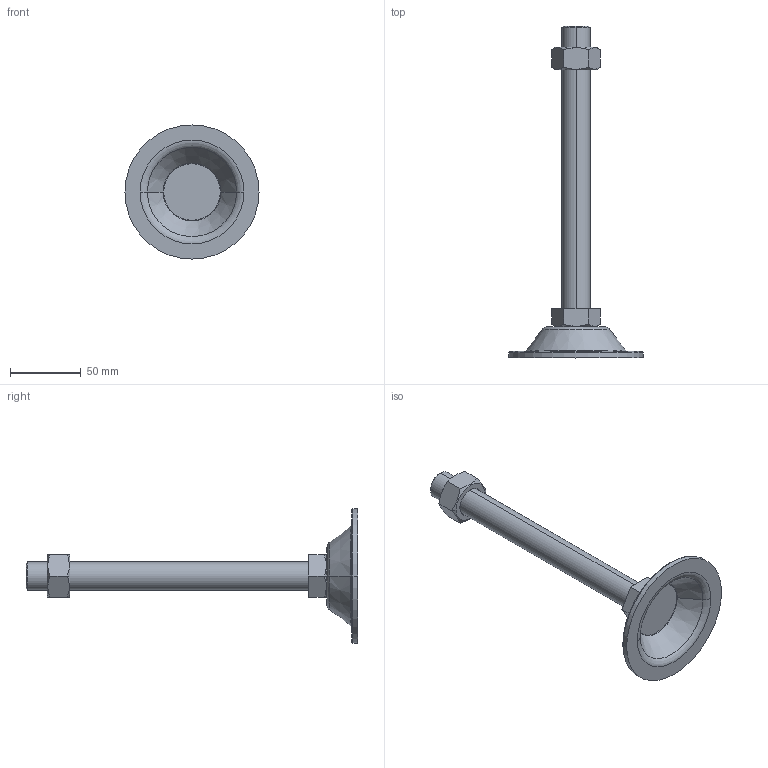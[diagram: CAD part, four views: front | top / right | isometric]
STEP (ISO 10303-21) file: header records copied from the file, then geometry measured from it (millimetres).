
FILE_DESCRIPTION (( 'STEP AP214' ), '1' );
FILE_NAME ('BL95-M20-200.step', '2021-01-06T05:41:41', ( '' ), ( '' ), 'SwSTEP 2.0', 'SolidWorks 2019', '' );
FILE_SCHEMA (( 'AUTOMOTIVE_DESIGN' ));
Length unit declared in the file: millimetre
Products named in the file (1): BL95-M20-200
Bounding box: 95 x 235 x 95 mm (x, y, z)
Volume: 118461.5 mm3; surface area: 37067.1 mm2
Topology: 3 solids, 3 shells, 53 faces, 110 edges, 66 vertices
Faces by surface type: plane 21, cone 16, torus 10, cylinder 6
Entity records: 1630 total; most frequent: CARTESIAN_POINT 440, DIRECTION 252, ORIENTED_EDGE 220, EDGE_CURVE 110, AXIS2_PLACEMENT_3D 106, VERTEX_POINT 66, EDGE_LOOP 58, ADVANCED_FACE 53
